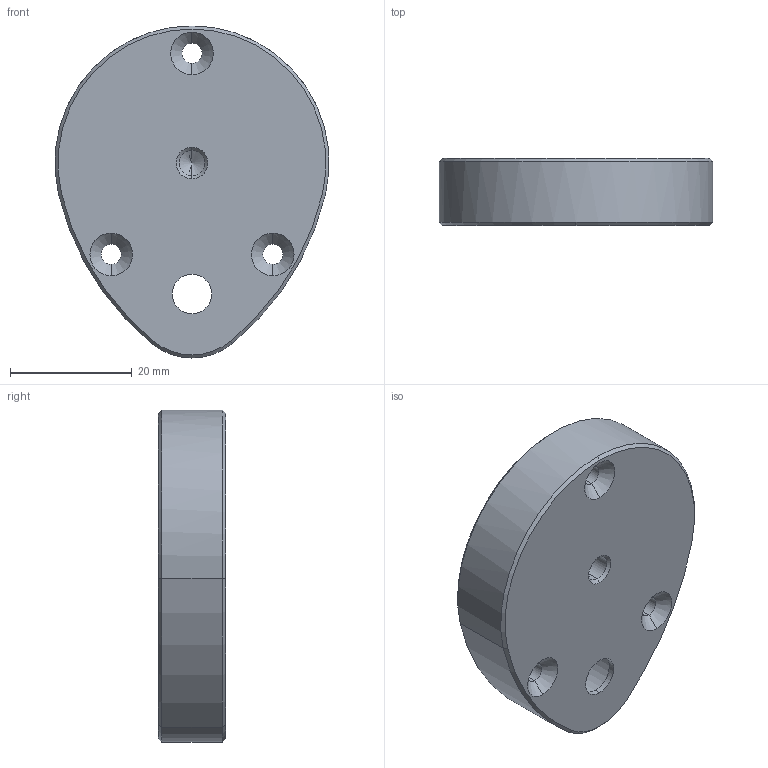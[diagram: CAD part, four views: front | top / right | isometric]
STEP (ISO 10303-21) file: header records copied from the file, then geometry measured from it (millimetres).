
FILE_DESCRIPTION (( 'STEP AP214' ), '1' );
FILE_NAME ('ﾏﾂﾑﾍ.733511.001 ﾎ魵瑙韃.STEP', '2026-02-20T08:48:30', ( '' ), ( '' ), 'SwSTEP 2.0', 'SolidWorks 2024', '' );
FILE_SCHEMA (( 'AUTOMOTIVE_DESIGN' ));
Length unit declared in the file: millimetre
Products named in the file (1): ПВСН.733511.001 Основание
Bounding box: 44.92 x 11 x 54.5 mm (x, y, z)
Volume: 17968.6 mm3; surface area: 6845.3 mm2
Topology: 1 solids, 1 shells, 156 faces, 376 edges, 220 vertices
Faces by surface type: cylinder 61, cone 28, torus 26, bspline 24, plane 17
Entity records: 5476 total; most frequent: CARTESIAN_POINT 1759, DIRECTION 789, ORIENTED_EDGE 732, EDGE_CURVE 366, AXIS2_PLACEMENT_3D 326, VERTEX_POINT 220, CIRCLE 193, EDGE_LOOP 172
